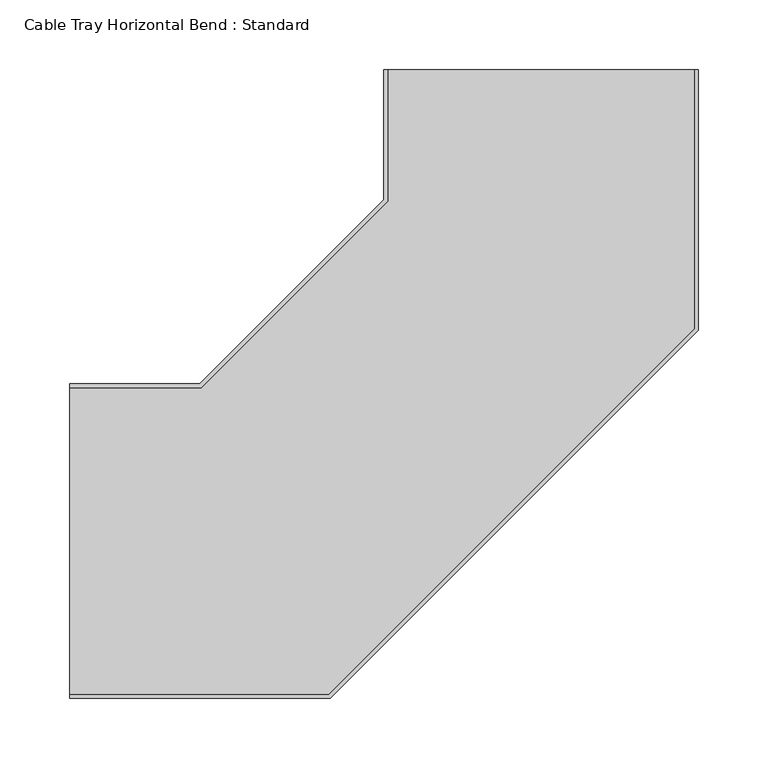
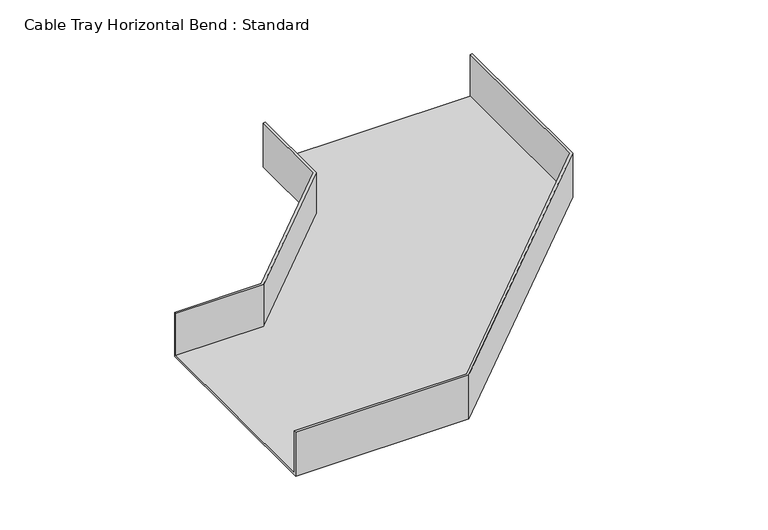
"""IFC4 building model written with IfcOpenShell, lengths in millimetres: cable carrier fitting geometry, Cable Tray Horizontal Bend : Standard."""

from ifc_helpers import new_model, si_unit, origin, place, context, project, spatial, faceted_brep, source, transform, mapped, element, save


def cable_tray_horizontal_bend_standard_23e28a4a(model_context):
    return source(origin(), model_context, "Body", "Brep", [
        faceted_brep([(-337.5, -112.5, -25.0), (-337.5, -112.5, 25.0), (-337.5, -109.96, 25.0), (-337.5, -109.96, -22.46), (-337.5, 109.96, -22.46), (-337.5, 109.96, 25.0), (-337.5, 112.5, 25.0), (-337.5, 112.5, -25.0), (112.5, 337.5, -25.0), (-112.5, 337.5, -25.0), (-112.5, 337.5, 25.0), (-109.96, 337.5, 25.0), (-109.96, 337.5, -22.46), (109.96, 337.5, -22.46), (109.96, 337.5, 25.0), (112.5, 337.5, 25.0), (-151.1038969, -112.5, -25.0), (-151.1038969, -112.5, 25.0), (112.5, 151.1038969, 25.0), (109.96, 152.1559994, 25.0), (-152.1559994, -109.96, 25.0), (-152.1559994, -109.96, -22.46), (109.96, 152.1559994, -22.46), (-109.96, 243.249846, -22.46), (-243.249846, 109.96, -22.46), (-243.249846, 109.96, 25.0), (-109.96, 243.249846, 25.0), (-112.5, 244.3019485, 25.0), (-244.3019485, 112.5, 25.0), (-244.3019485, 112.5, -25.0), (-112.5, 244.3019485, -25.0), (112.5, 151.1038969, -25.0)], [[[0, 1, 2, 3, 4, 5, 6, 7]], [[8, 9, 10, 11, 12, 13, 14, 15]], [[1, 0, 16, 17]], [[2, 1, 17, 18, 15, 14, 19, 20]], [[3, 2, 20, 21]], [[4, 3, 21, 22, 13, 12, 23, 24]], [[5, 4, 24, 25]], [[6, 5, 25, 26, 11, 10, 27, 28]], [[7, 6, 28, 29]], [[0, 7, 29, 30, 9, 8, 31, 16]], [[17, 16, 31, 18]], [[21, 20, 19, 22]], [[25, 24, 23, 26]], [[29, 28, 27, 30]], [[18, 31, 8, 15]], [[22, 19, 14, 13]], [[26, 23, 12, 11]], [[30, 27, 10, 9]]]),
    ])


if __name__ == "__main__":
    model = new_model("IFC4")
    model_context = context("Model", 3, world=origin())
    ifc_project = project(units=[si_unit("LENGTHUNIT", "METRE", prefix="MILLI")], contexts=[model_context])
    site = spatial("IfcSite", under=ifc_project)
    building = spatial("IfcBuilding", under=site)
    placement = place(None, origin())
    cable_tray_horizontal_bend_standard_shape = cable_tray_horizontal_bend_standard_23e28a4a(model_context)
    element("IfcCableCarrierFitting", 1, ObjectType="Cable Tray Horizontal Bend : Standard", at=placement, inside=building, context=model_context, shape_type="MappedRepresentation", body=[
        mapped(cable_tray_horizontal_bend_standard_shape, transform((0.0, 0.0, 0.0), x_axis=(1.0, 0.0, 0.0), y_axis=(0.0, 1.0, 0.0), z_axis=(0.0, 0.0, 1.0))),
    ])
    save(model, "model.ifc")
